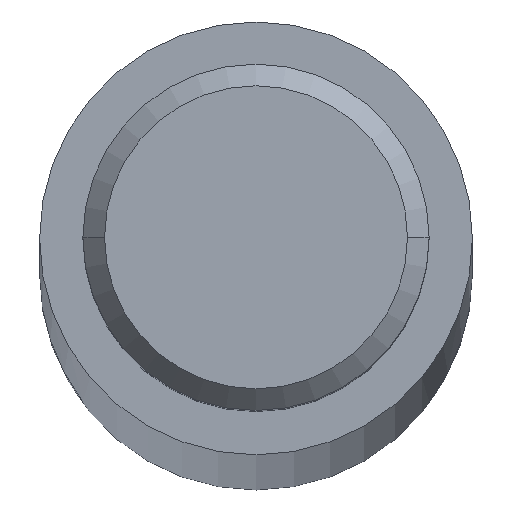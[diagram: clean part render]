
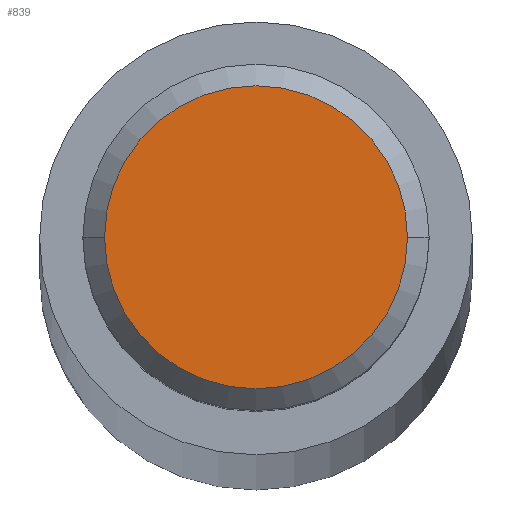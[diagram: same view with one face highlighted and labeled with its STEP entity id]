
A CAD part, top view. The second image highlights one B-rep face of the part: STEP entity #839.
In plain terms, the highlighted planar face has unit normal (0, 0, 1).
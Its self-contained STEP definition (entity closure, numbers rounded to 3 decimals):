
#6 = AXIS2_PLACEMENT_3D ( 'NONE', #477, #858, #800 ) ;
#55 = FACE_OUTER_BOUND ( 'NONE', #784, .T. ) ;
#63 = DIRECTION ( 'NONE',  ( 0., 0., 1. ) ) ;
#116 = VERTEX_POINT ( 'NONE', #506 ) ;
#145 = AXIS2_PLACEMENT_3D ( 'NONE', #826, #224, #155 ) ;
#155 = DIRECTION ( 'NONE',  ( 1., 0., 0. ) ) ;
#191 = EDGE_CURVE ( 'NONE', #256, #116, #531, .T. ) ;
#224 = DIRECTION ( 'NONE',  ( 0., 0., 1. ) ) ;
#245 = ORIENTED_EDGE ( 'NONE', *, *, #867, .T. ) ;
#256 = VERTEX_POINT ( 'NONE', #527 ) ;
#329 = CARTESIAN_POINT ( 'NONE',  ( 0., 0., 480. ) ) ;
#477 = CARTESIAN_POINT ( 'NONE',  ( 0., 0., 480. ) ) ;
#506 = CARTESIAN_POINT ( 'NONE',  ( -3.5, 0., 480. ) ) ;
#519 = AXIS2_PLACEMENT_3D ( 'NONE', #329, #63, #864 ) ;
#527 = CARTESIAN_POINT ( 'NONE',  ( 3.5, 0., 480. ) ) ;
#531 = CIRCLE ( 'NONE', #145, 3.5 ) ;
#534 = PLANE ( 'NONE',  #6 ) ;
#653 = ORIENTED_EDGE ( 'NONE', *, *, #191, .T. ) ;
#749 = CIRCLE ( 'NONE', #519, 3.5 ) ;
#784 = EDGE_LOOP ( 'NONE', ( #245, #653 ) ) ;
#800 = DIRECTION ( 'NONE',  ( 1., 0., 0. ) ) ;
#826 = CARTESIAN_POINT ( 'NONE',  ( 0., 0., 480. ) ) ;
#839 = ADVANCED_FACE ( 'NONE', ( #55 ), #534, .T. ) ;
#858 = DIRECTION ( 'NONE',  ( 0., 0., 1. ) ) ;
#864 = DIRECTION ( 'NONE',  ( 1., 0., 0. ) ) ;
#867 = EDGE_CURVE ( 'NONE', #116, #256, #749, .T. ) ;
